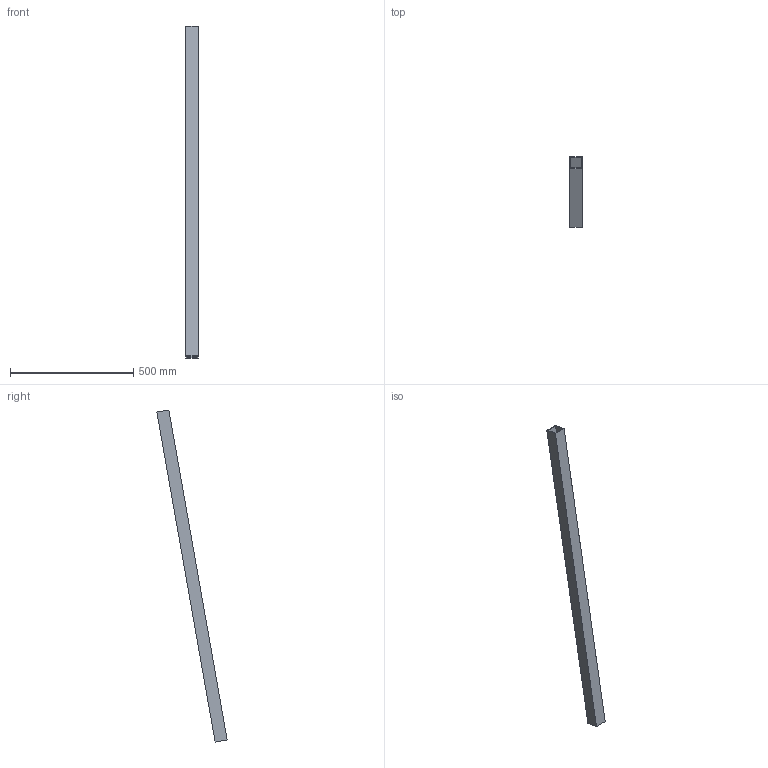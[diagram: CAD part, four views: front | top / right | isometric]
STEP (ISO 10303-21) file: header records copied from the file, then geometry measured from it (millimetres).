
FILE_DESCRIPTION(('golf model'),'2;1');
FILE_NAME('golf','',(''),(''),'golf_step_io','golf','');
FILE_SCHEMA(('AUTOMOTIVE_DESIGN { 1 0 10303 214 1 1 1 1 }'));
Length unit declared in the file: millimetre
Products named in the file (2): ASSEMBLY; bed.cross_11
Assembly tree (1 placements, depth 2):
  ASSEMBLY
    bed.cross_11
Bounding box: 50 x 284.56 x 1345.96 mm (x, y, z)
Volume: 761838 mm3; surface area: 509014 mm2
Topology: 1 solids, 1 shells, 10 faces, 24 edges, 16 vertices
Faces by surface type: plane 10
Entity records: 326 total; most frequent: CARTESIAN_POINT 52, DIRECTION 48, ORIENTED_EDGE 48, VECTOR 24, LINE 24, EDGE_CURVE 24, VERTEX_POINT 16, AXIS2_PLACEMENT_3D 12
